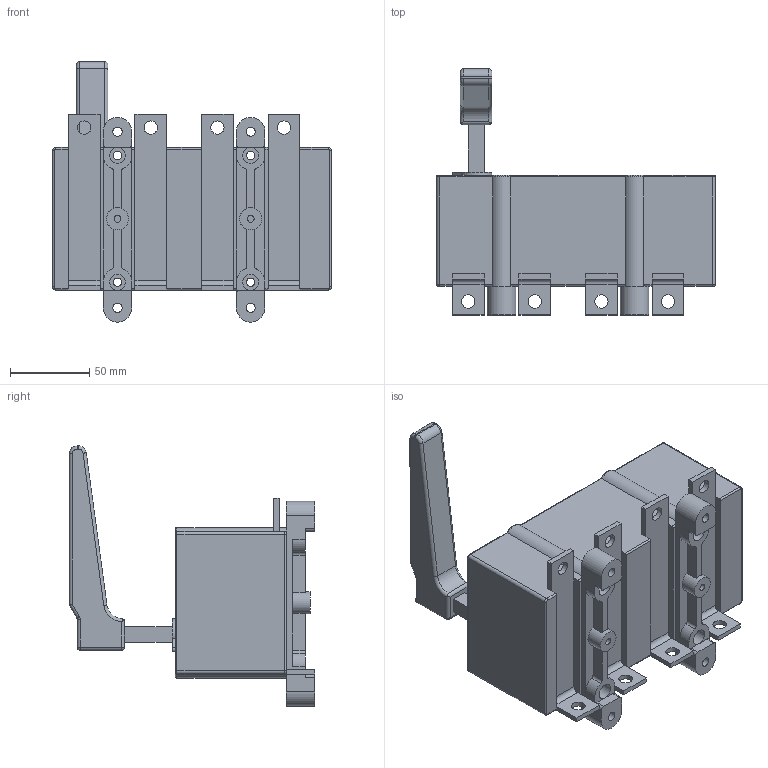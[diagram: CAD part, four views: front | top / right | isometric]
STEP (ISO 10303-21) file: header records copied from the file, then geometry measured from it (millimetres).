
FILE_DESCRIPTION(/* description */ (''),/* implementation_level */ '2;1');
FILE_NAME(/* name */ 'RA250 P3 NB-R.stp',/* time_stamp */ '2021-08-18T08:21:49+02:00',/* author */ (''),/* organization */ (''),/* preprocessor_version */ 'ST-DEVELOPER v18.1',/* originating_system */ 'SIEMENS PLM Software NX 1965',/* authorisation */ '');
FILE_SCHEMA (('AUTOMOTIVE_DESIGN { 1 0 10303 214 3 1 1 1 }'));
Length unit declared in the file: millimetre
Products named in the file (1): RA250 P3 NB-R_stp
Bounding box: 176 x 155 x 164.18 mm (x, y, z)
Volume: 1180476.1 mm3; surface area: 109782 mm2
Topology: 1 solids, 1 shells, 264 faces, 691 edges, 432 vertices
Faces by surface type: plane 120, cylinder 118, torus 15, sphere 6, bspline 5
Full cylindrical faces by diameter (mm): 4.3 x2, 5.3 x4, 5.8 x4, 8.5 x8, 10 x8, 14 x2
Entity records: 7978 total; most frequent: CARTESIAN_POINT 1519, DIRECTION 1383, ORIENTED_EDGE 1282, EDGE_CURVE 641, AXIS2_PLACEMENT_3D 504, VERTEX_POINT 416, LINE 375, VECTOR 375
